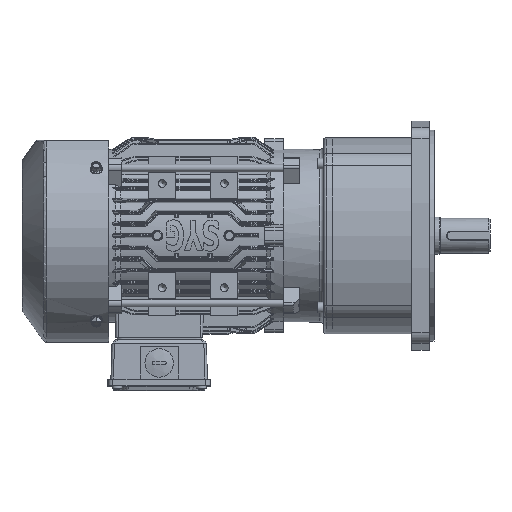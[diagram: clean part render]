
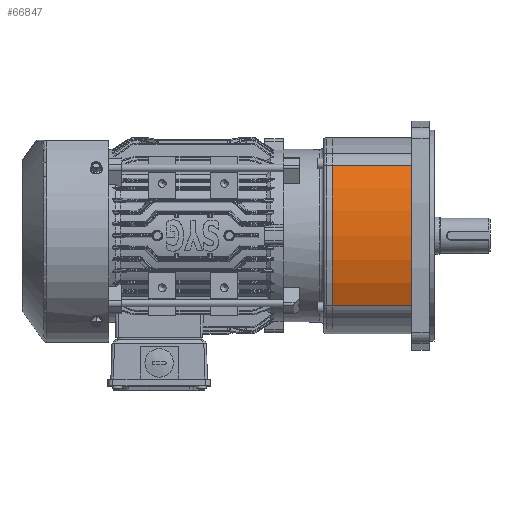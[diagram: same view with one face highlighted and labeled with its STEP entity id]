
A CAD part, top view. The second image highlights one B-rep face of the part: STEP entity #66847.
In plain terms, the highlighted cylindrical face has radius 130 mm (diameter 260 mm), a partial arc.
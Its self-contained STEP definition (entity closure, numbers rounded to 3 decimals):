
#8106=LINE('',#157206,#13079);
#8108=LINE('',#157212,#13081);
#13079=VECTOR('',#90017,10.);
#13081=VECTOR('',#90023,10.);
#15155=CYLINDRICAL_SURFACE('',#72973,130.);
#18821=FACE_OUTER_BOUND('',#22834,.T.);
#22834=EDGE_LOOP('',(#60782,#60783,#60784,#60785));
#23111=CIRCLE('',#67155,130.);
#25170=CIRCLE('',#72974,130.);
#25472=VERTEX_POINT('',#91178);
#25474=VERTEX_POINT('',#91184);
#31409=VERTEX_POINT('',#157205);
#31411=VERTEX_POINT('',#157211);
#31816=EDGE_CURVE('',#25474,#25472,#23111,.T.);
#41248=EDGE_CURVE('',#25472,#31409,#8106,.T.);
#41251=EDGE_CURVE('',#31411,#25474,#8108,.T.);
#41252=EDGE_CURVE('',#31409,#31411,#25170,.T.);
#60782=ORIENTED_EDGE('',*,*,#41248,.F.);
#60783=ORIENTED_EDGE('',*,*,#31816,.F.);
#60784=ORIENTED_EDGE('',*,*,#41251,.F.);
#60785=ORIENTED_EDGE('',*,*,#41252,.F.);
#66847=ADVANCED_FACE('',(#18821),#15155,.T.);
#67155=AXIS2_PLACEMENT_3D('',#91186,#73621,#73622);
#72973=AXIS2_PLACEMENT_3D('',#157210,#90021,#90022);
#72974=AXIS2_PLACEMENT_3D('',#157213,#90024,#90025);
#73621=DIRECTION('center_axis',(-1.,0.,0.));
#73622=DIRECTION('ref_axis',(0.,0.483,-0.876));
#90017=DIRECTION('',(1.,0.,0.));
#90021=DIRECTION('center_axis',(-1.,0.,0.));
#90022=DIRECTION('ref_axis',(0.,0.483,-0.876));
#90023=DIRECTION('',(-1.,0.,0.));
#90024=DIRECTION('center_axis',(1.,0.,0.));
#90025=DIRECTION('ref_axis',(0.,0.483,-0.876));
#91178=CARTESIAN_POINT('',(-59.037,59.657,50.23));
#91184=CARTESIAN_POINT('',(-59.037,-53.757,50.23));
#91186=CARTESIAN_POINT('Origin',(-59.037,2.95,-66.75));
#157205=CARTESIAN_POINT('',(4.963,59.657,50.23));
#157206=CARTESIAN_POINT('',(4.963,59.657,50.23));
#157210=CARTESIAN_POINT('Origin',(4.963,2.95,-66.75));
#157211=CARTESIAN_POINT('',(4.963,-53.757,50.23));
#157212=CARTESIAN_POINT('',(4.963,-53.757,50.23));
#157213=CARTESIAN_POINT('Origin',(4.963,2.95,-66.75));
